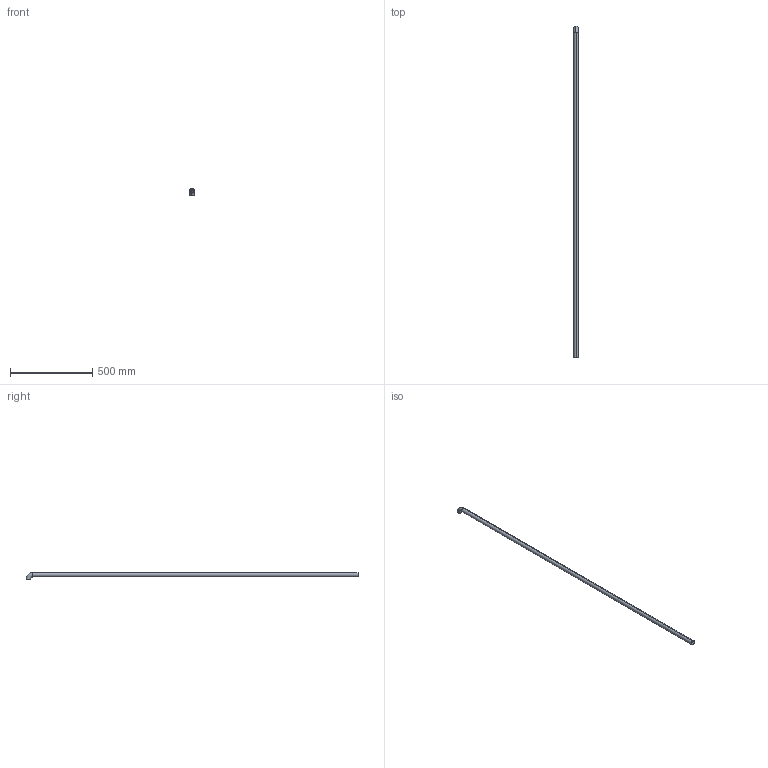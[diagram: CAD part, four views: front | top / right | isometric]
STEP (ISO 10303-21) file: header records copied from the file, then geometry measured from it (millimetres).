
FILE_DESCRIPTION (( 'STEP AP214' ), '1' );
FILE_NAME ('CCJ029-REP.344 - LISSE PLATEFORME SUPERIEURE A3-B3.STEP', '2025-11-04T13:24:46', ( '' ), ( '' ), 'SwSTEP 2.0', 'SolidWorks 2021', '' );
FILE_SCHEMA (( 'AUTOMOTIVE_DESIGN' ));
Length unit declared in the file: millimetre
Products named in the file (1): CCJ029-REP.344 - LISSE PLATEFORME SUPERIEURE A3-B3
Bounding box: 26.9 x 2022.45 x 42.45 mm (x, y, z)
Volume: 360044.7 mm3; surface area: 313437.9 mm2
Topology: 1 solids, 1 shells, 10 faces, 20 edges, 12 vertices
Faces by surface type: torus 4, cylinder 4, plane 2
Entity records: 306 total; most frequent: DIRECTION 58, CARTESIAN_POINT 43, ORIENTED_EDGE 40, AXIS2_PLACEMENT_3D 27, EDGE_CURVE 20, CIRCLE 16, EDGE_LOOP 12, VERTEX_POINT 12
